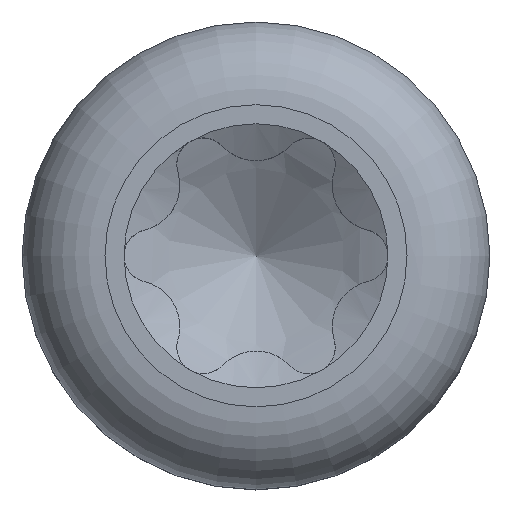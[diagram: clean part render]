
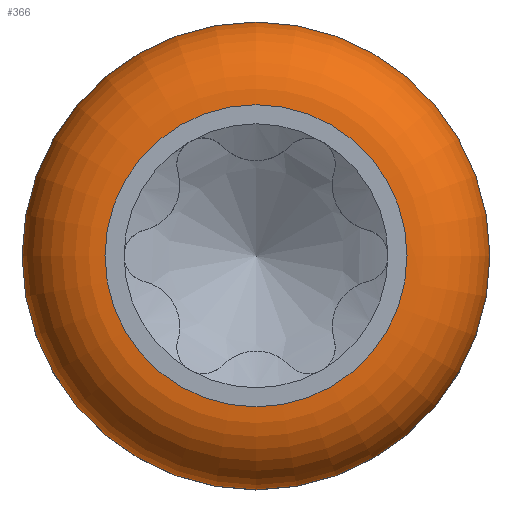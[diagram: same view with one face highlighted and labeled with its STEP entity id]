
A CAD part, top view. The second image highlights one B-rep face of the part: STEP entity #366.
In plain terms, the highlighted toroidal (fillet/blend) face has major radius 2.26 mm and minor radius 1.24 mm.
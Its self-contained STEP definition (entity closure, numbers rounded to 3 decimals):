
#326=TOROIDAL_SURFACE('',#1903,2.26,1.24);
#337=FACE_BOUND('',#622,.T.);
#338=FACE_BOUND('',#623,.T.);
#366=ADVANCED_FACE('',(#337,#338),#326,.T.);
#622=EDGE_LOOP('',(#827));
#623=EDGE_LOOP('',(#828));
#751=CIRCLE('',#1900,3.5);
#752=CIRCLE('',#1902,2.26);
#827=ORIENTED_EDGE('',*,*,#1521,.F.);
#828=ORIENTED_EDGE('',*,*,#1520,.T.);
#1357=VERTEX_POINT('',#4304);
#1358=VERTEX_POINT('',#4307);
#1520=EDGE_CURVE('',#1357,#1357,#751,.T.);
#1521=EDGE_CURVE('',#1358,#1358,#752,.T.);
#1900=AXIS2_PLACEMENT_3D('',#4303,#1968,#1969);
#1902=AXIS2_PLACEMENT_3D('',#4306,#1972,#1973);
#1903=AXIS2_PLACEMENT_3D('',#4308,#1974,#1975);
#1968=DIRECTION('',(0.,0.,1.));
#1969=DIRECTION('',(1.,0.,0.));
#1972=DIRECTION('',(0.,0.,1.));
#1973=DIRECTION('',(1.,0.,0.));
#1974=DIRECTION('',(0.,0.,1.));
#1975=DIRECTION('',(1.,0.,0.));
#4303=CARTESIAN_POINT('',(0.,0.,1.86));
#4304=CARTESIAN_POINT('',(3.5,0.,1.86));
#4306=CARTESIAN_POINT('',(0.,0.,3.1));
#4307=CARTESIAN_POINT('',(2.26,0.,3.1));
#4308=CARTESIAN_POINT('',(0.,0.,1.86));
